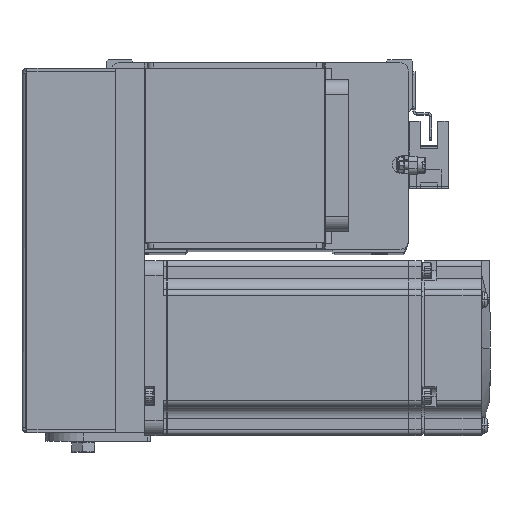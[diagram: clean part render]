
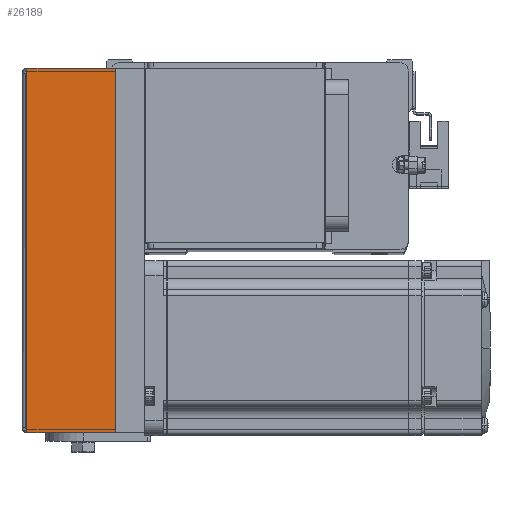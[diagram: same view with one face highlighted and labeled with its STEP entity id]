
A CAD part, top view. The second image highlights one B-rep face of the part: STEP entity #26189.
In plain terms, the highlighted planar face has unit normal (0, 0, 1) as drawn and (0, 0, -1) by its records, which use the part's own axes.
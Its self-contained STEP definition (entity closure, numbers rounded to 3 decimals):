
#650 = VECTOR ( 'NONE', #46621, 1000. ) ;
#1339 = ORIENTED_EDGE ( 'NONE', *, *, #6826, .F. ) ;
#3023 = ORIENTED_EDGE ( 'NONE', *, *, #38616, .F. ) ;
#5523 = ORIENTED_EDGE ( 'NONE', *, *, #20777, .T. ) ;
#6462 = LINE ( 'NONE', #38869, #12979 ) ;
#6826 = EDGE_CURVE ( 'NONE', #19666, #31252, #21536, .T. ) ;
#6910 = CARTESIAN_POINT ( 'NONE',  ( 0., -30.8, -31. ) ) ;
#7170 = CARTESIAN_POINT ( 'NONE',  ( -62.5, -30.3, -31. ) ) ;
#8013 = EDGE_CURVE ( 'NONE', #16184, #32058, #11644, .T. ) ;
#9786 = DIRECTION ( 'NONE',  ( 1., 0., 0. ) ) ;
#11644 = LINE ( 'NONE', #7170, #12822 ) ;
#12822 = VECTOR ( 'NONE', #43841, 1000. ) ;
#12979 = VECTOR ( 'NONE', #9786, 1000. ) ;
#14411 = EDGE_LOOP ( 'NONE', ( #3023, #44006, #5523, #1339 ) ) ;
#14728 = DIRECTION ( 'NONE',  ( 0., 0., 1. ) ) ;
#16184 = VERTEX_POINT ( 'NONE', #44523 ) ;
#17335 = CARTESIAN_POINT ( 'NONE',  ( 0., 0., -31. ) ) ;
#17806 = FACE_OUTER_BOUND ( 'NONE', #14411, .T. ) ;
#18895 = AXIS2_PLACEMENT_3D ( 'NONE', #6910, #14728, #43570 ) ;
#19666 = VERTEX_POINT ( 'NONE', #22991 ) ;
#20777 = EDGE_CURVE ( 'NONE', #32058, #31252, #46401, .T. ) ;
#21536 = LINE ( 'NONE', #43302, #650 ) ;
#22991 = CARTESIAN_POINT ( 'NONE',  ( 62.5, -30.3, -31. ) ) ;
#26189 = ADVANCED_FACE ( 'NONE', ( #17806 ), #46651, .F. ) ;
#31252 = VERTEX_POINT ( 'NONE', #38854 ) ;
#32058 = VERTEX_POINT ( 'NONE', #39164 ) ;
#32100 = VECTOR ( 'NONE', #45940, 1000. ) ;
#38616 = EDGE_CURVE ( 'NONE', #16184, #19666, #6462, .T. ) ;
#38854 = CARTESIAN_POINT ( 'NONE',  ( 62.5, 0., -31. ) ) ;
#38869 = CARTESIAN_POINT ( 'NONE',  ( 62.5, -30.3, -31. ) ) ;
#39164 = CARTESIAN_POINT ( 'NONE',  ( -62.5, 0., -31. ) ) ;
#43302 = CARTESIAN_POINT ( 'NONE',  ( 62.5, -30.3, -31. ) ) ;
#43570 = DIRECTION ( 'NONE',  ( 0., 1., 0. ) ) ;
#43841 = DIRECTION ( 'NONE',  ( 0., 1., 0. ) ) ;
#44006 = ORIENTED_EDGE ( 'NONE', *, *, #8013, .T. ) ;
#44523 = CARTESIAN_POINT ( 'NONE',  ( -62.5, -30.3, -31. ) ) ;
#45940 = DIRECTION ( 'NONE',  ( 1., 0., 0. ) ) ;
#46401 = LINE ( 'NONE', #17335, #32100 ) ;
#46621 = DIRECTION ( 'NONE',  ( 0., 1., 0. ) ) ;
#46651 = PLANE ( 'NONE',  #18895 ) ;
